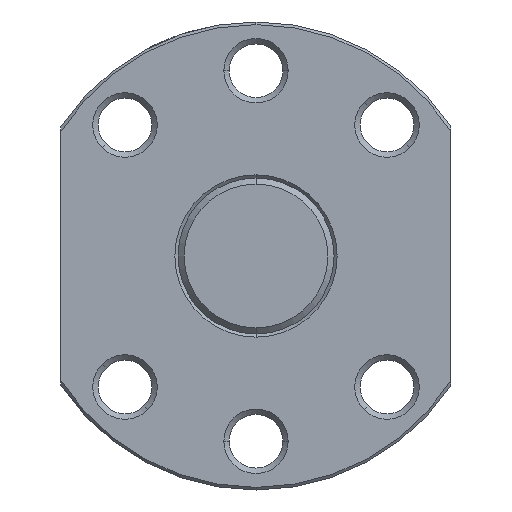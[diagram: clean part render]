
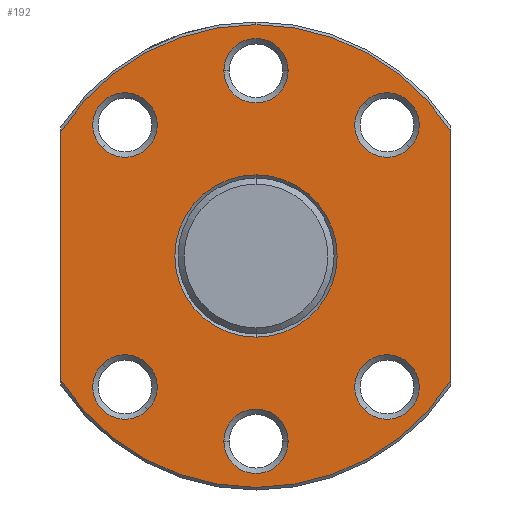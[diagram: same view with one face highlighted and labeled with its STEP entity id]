
A CAD part, left-side view. The second image highlights one B-rep face of the part: STEP entity #192.
In plain terms, the highlighted planar face has unit normal (-1, 0, 0).
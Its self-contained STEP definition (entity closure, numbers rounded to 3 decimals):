
#192=ADVANCED_FACE('',(#348,#349,#350,#351,#352,#353,#354,#355),#356,.T.);
#348=FACE_BOUND('',#521,.T.);
#349=FACE_OUTER_BOUND('',#522,.T.);
#350=FACE_BOUND('',#523,.T.);
#351=FACE_BOUND('',#524,.T.);
#352=FACE_BOUND('',#525,.T.);
#353=FACE_BOUND('',#526,.T.);
#354=FACE_BOUND('',#527,.T.);
#355=FACE_BOUND('',#528,.T.);
#356=PLANE('',#529);
#521=EDGE_LOOP('',(#1051,#1052));
#522=EDGE_LOOP('',(#1053,#1054,#1055,#1056,#1057,#1058));
#523=EDGE_LOOP('',(#1059,#1060));
#524=EDGE_LOOP('',(#1061,#1062));
#525=EDGE_LOOP('',(#1063,#1064));
#526=EDGE_LOOP('',(#1065,#1066));
#527=EDGE_LOOP('',(#1067,#1068));
#528=EDGE_LOOP('',(#1069,#1070));
#529=AXIS2_PLACEMENT_3D('',#1071,#1072,#1073);
#1051=ORIENTED_EDGE('',*,*,#1256,.T.);
#1052=ORIENTED_EDGE('',*,*,#1236,.T.);
#1053=ORIENTED_EDGE('',*,*,#1257,.T.);
#1054=ORIENTED_EDGE('',*,*,#1297,.F.);
#1055=ORIENTED_EDGE('',*,*,#1164,.F.);
#1056=ORIENTED_EDGE('',*,*,#1278,.T.);
#1057=ORIENTED_EDGE('',*,*,#1226,.F.);
#1058=ORIENTED_EDGE('',*,*,#1277,.F.);
#1059=ORIENTED_EDGE('',*,*,#1281,.T.);
#1060=ORIENTED_EDGE('',*,*,#1216,.T.);
#1061=ORIENTED_EDGE('',*,*,#1284,.T.);
#1062=ORIENTED_EDGE('',*,*,#1206,.T.);
#1063=ORIENTED_EDGE('',*,*,#1287,.T.);
#1064=ORIENTED_EDGE('',*,*,#1196,.T.);
#1065=ORIENTED_EDGE('',*,*,#1290,.T.);
#1066=ORIENTED_EDGE('',*,*,#1186,.T.);
#1067=ORIENTED_EDGE('',*,*,#1293,.T.);
#1068=ORIENTED_EDGE('',*,*,#1176,.T.);
#1069=ORIENTED_EDGE('',*,*,#1296,.T.);
#1070=ORIENTED_EDGE('',*,*,#1166,.T.);
#1071=CARTESIAN_POINT('',(25.0,0.0,11.865));
#1072=DIRECTION('',(-1.0,0.0,0.));
#1073=DIRECTION('',(0.,0.0,-1.0));
#1164=EDGE_CURVE('',#1362,#1360,#1364,.T.);
#1166=EDGE_CURVE('',#1368,#1365,#1369,.T.);
#1176=EDGE_CURVE('',#1386,#1383,#1387,.T.);
#1186=EDGE_CURVE('',#1404,#1401,#1405,.T.);
#1196=EDGE_CURVE('',#1422,#1419,#1423,.T.);
#1206=EDGE_CURVE('',#1440,#1437,#1441,.T.);
#1216=EDGE_CURVE('',#1458,#1455,#1459,.T.);
#1226=EDGE_CURVE('',#1473,#1476,#1477,.T.);
#1236=EDGE_CURVE('',#1494,#1491,#1495,.T.);
#1256=EDGE_CURVE('',#1491,#1494,#1525,.T.);
#1257=EDGE_CURVE('',#1526,#1527,#1528,.T.);
#1277=EDGE_CURVE('',#1526,#1473,#1554,.T.);
#1278=EDGE_CURVE('',#1362,#1476,#1555,.T.);
#1281=EDGE_CURVE('',#1455,#1458,#1558,.T.);
#1284=EDGE_CURVE('',#1437,#1440,#1561,.T.);
#1287=EDGE_CURVE('',#1419,#1422,#1564,.T.);
#1290=EDGE_CURVE('',#1401,#1404,#1567,.T.);
#1293=EDGE_CURVE('',#1383,#1386,#1570,.T.);
#1296=EDGE_CURVE('',#1365,#1368,#1573,.T.);
#1297=EDGE_CURVE('',#1360,#1527,#1574,.T.);
#1360=VERTEX_POINT('',#1661);
#1362=VERTEX_POINT('',#1664);
#1364=CIRCLE('',#1675,23.73);
#1365=VERTEX_POINT('',#1676);
#1368=VERTEX_POINT('',#1680);
#1369=CIRCLE('',#1681,3.3);
#1383=VERTEX_POINT('',#1700);
#1386=VERTEX_POINT('',#1704);
#1387=CIRCLE('',#1705,3.3);
#1401=VERTEX_POINT('',#1724);
#1404=VERTEX_POINT('',#1728);
#1405=CIRCLE('',#1729,3.3);
#1419=VERTEX_POINT('',#1748);
#1422=VERTEX_POINT('',#1752);
#1423=CIRCLE('',#1753,3.3);
#1437=VERTEX_POINT('',#1772);
#1440=VERTEX_POINT('',#1776);
#1441=CIRCLE('',#1777,3.3);
#1455=VERTEX_POINT('',#1796);
#1458=VERTEX_POINT('',#1800);
#1459=CIRCLE('',#1801,3.3);
#1473=VERTEX_POINT('',#1820);
#1476=VERTEX_POINT('',#1824);
#1477=CIRCLE('',#1825,23.73);
#1491=VERTEX_POINT('',#1860);
#1494=VERTEX_POINT('',#1864);
#1495=CIRCLE('',#1865,8.32);
#1525=CIRCLE('',#1971,8.32);
#1526=VERTEX_POINT('',#1972);
#1527=VERTEX_POINT('',#1973);
#1528=LINE('',#1974,#1975);
#1554=CIRCLE('',#2041,23.73);
#1555=LINE('',#2042,#2043);
#1558=CIRCLE('',#2046,3.3);
#1561=CIRCLE('',#2049,3.3);
#1564=CIRCLE('',#2052,3.3);
#1567=CIRCLE('',#2055,3.3);
#1570=CIRCLE('',#2058,3.3);
#1573=CIRCLE('',#2061,3.3);
#1574=CIRCLE('',#2062,23.73);
#1661=CARTESIAN_POINT('',(25.0,0.,-23.73));
#1664=CARTESIAN_POINT('',(25.0,-20.0,-12.772));
#1675=AXIS2_PLACEMENT_3D('',#2133,#2134,#2135);
#1676=CARTESIAN_POINT('',(25.0,-11.102,15.768));
#1680=CARTESIAN_POINT('',(25.0,-15.768,11.102));
#1681=AXIS2_PLACEMENT_3D('',#2137,#2138,#2139);
#1700=CARTESIAN_POINT('',(25.0,3.3,19.0));
#1704=CARTESIAN_POINT('',(25.0,-3.3,19.0));
#1705=AXIS2_PLACEMENT_3D('',#2155,#2156,#2157);
#1724=CARTESIAN_POINT('',(25.0,15.768,11.102));
#1728=CARTESIAN_POINT('',(25.0,11.102,15.768));
#1729=AXIS2_PLACEMENT_3D('',#2173,#2174,#2175);
#1748=CARTESIAN_POINT('',(25.0,11.102,-15.768));
#1752=CARTESIAN_POINT('',(25.0,15.768,-11.102));
#1753=AXIS2_PLACEMENT_3D('',#2191,#2192,#2193);
#1772=CARTESIAN_POINT('',(25.0,-3.3,-19.0));
#1776=CARTESIAN_POINT('',(25.0,3.3,-19.0));
#1777=AXIS2_PLACEMENT_3D('',#2209,#2210,#2211);
#1796=CARTESIAN_POINT('',(25.0,-15.768,-11.102));
#1800=CARTESIAN_POINT('',(25.0,-11.102,-15.768));
#1801=AXIS2_PLACEMENT_3D('',#2227,#2228,#2229);
#1820=CARTESIAN_POINT('',(25.0,0.,23.73));
#1824=CARTESIAN_POINT('',(25.0,-20.0,12.772));
#1825=AXIS2_PLACEMENT_3D('',#2245,#2246,#2247);
#1860=CARTESIAN_POINT('',(25.0,0.0,8.32));
#1864=CARTESIAN_POINT('',(25.0,0.,-8.32));
#1865=AXIS2_PLACEMENT_3D('',#2261,#2262,#2263);
#1971=AXIS2_PLACEMENT_3D('',#2297,#2298,#2299);
#1972=CARTESIAN_POINT('',(25.0,20.0,12.772));
#1973=CARTESIAN_POINT('',(25.0,20.0,-12.772));
#1974=CARTESIAN_POINT('',(25.0,20.0,5.933));
#1975=VECTOR('',#2300,1.0);
#2041=AXIS2_PLACEMENT_3D('',#2338,#2339,#2340);
#2042=CARTESIAN_POINT('',(25.0,-20.0,5.933));
#2043=VECTOR('',#2341,1.0);
#2046=AXIS2_PLACEMENT_3D('',#2348,#2349,#2350);
#2049=AXIS2_PLACEMENT_3D('',#2357,#2358,#2359);
#2052=AXIS2_PLACEMENT_3D('',#2366,#2367,#2368);
#2055=AXIS2_PLACEMENT_3D('',#2375,#2376,#2377);
#2058=AXIS2_PLACEMENT_3D('',#2384,#2385,#2386);
#2061=AXIS2_PLACEMENT_3D('',#2393,#2394,#2395);
#2062=AXIS2_PLACEMENT_3D('',#2396,#2397,#2398);
#2133=CARTESIAN_POINT('',(25.0,0.0,0.0));
#2134=DIRECTION('',(1.0,0.0,-0.0));
#2135=DIRECTION('',(0.0,0.0,1.0));
#2137=CARTESIAN_POINT('',(25.0,-13.435,13.435));
#2138=DIRECTION('',(1.0,0.0,0.));
#2139=DIRECTION('',(0.,0.707,0.707));
#2155=CARTESIAN_POINT('',(25.0,0.0,19.0));
#2156=DIRECTION('',(1.0,0.0,0.));
#2157=DIRECTION('',(0.0,1.0,0.0));
#2173=CARTESIAN_POINT('',(25.0,13.435,13.435));
#2174=DIRECTION('',(1.0,0.0,0.));
#2175=DIRECTION('',(0.,0.707,-0.707));
#2191=CARTESIAN_POINT('',(25.0,13.435,-13.435));
#2192=DIRECTION('',(1.0,0.0,0.));
#2193=DIRECTION('',(0.,-0.707,-0.707));
#2209=CARTESIAN_POINT('',(25.0,0.0,-19.0));
#2210=DIRECTION('',(1.0,0.0,0.));
#2211=DIRECTION('',(0.0,-1.0,0.0));
#2227=CARTESIAN_POINT('',(25.0,-13.435,-13.435));
#2228=DIRECTION('',(1.0,0.0,0.));
#2229=DIRECTION('',(0.,-0.707,0.707));
#2245=CARTESIAN_POINT('',(25.0,0.0,0.0));
#2246=DIRECTION('',(1.0,0.0,-0.0));
#2247=DIRECTION('',(0.0,0.0,1.0));
#2261=CARTESIAN_POINT('',(25.0,0.0,0.0));
#2262=DIRECTION('',(1.0,0.0,0.));
#2263=DIRECTION('',(0.,0.0,1.0));
#2297=CARTESIAN_POINT('',(25.0,0.0,0.0));
#2298=DIRECTION('',(1.0,0.0,0.));
#2299=DIRECTION('',(0.,0.0,1.0));
#2300=DIRECTION('',(0.,0.0,-1.0));
#2338=CARTESIAN_POINT('',(25.0,0.0,0.0));
#2339=DIRECTION('',(1.0,0.0,-0.0));
#2340=DIRECTION('',(0.0,0.0,1.0));
#2341=DIRECTION('',(0.,0.0,1.0));
#2348=CARTESIAN_POINT('',(25.0,-13.435,-13.435));
#2349=DIRECTION('',(1.0,0.0,0.));
#2350=DIRECTION('',(0.,-0.707,0.707));
#2357=CARTESIAN_POINT('',(25.0,0.0,-19.0));
#2358=DIRECTION('',(1.0,0.0,0.));
#2359=DIRECTION('',(0.0,-1.0,0.0));
#2366=CARTESIAN_POINT('',(25.0,13.435,-13.435));
#2367=DIRECTION('',(1.0,0.0,0.));
#2368=DIRECTION('',(0.,-0.707,-0.707));
#2375=CARTESIAN_POINT('',(25.0,13.435,13.435));
#2376=DIRECTION('',(1.0,0.0,0.));
#2377=DIRECTION('',(0.,0.707,-0.707));
#2384=CARTESIAN_POINT('',(25.0,0.0,19.0));
#2385=DIRECTION('',(1.0,0.0,0.));
#2386=DIRECTION('',(0.0,1.0,0.0));
#2393=CARTESIAN_POINT('',(25.0,-13.435,13.435));
#2394=DIRECTION('',(1.0,0.0,0.));
#2395=DIRECTION('',(0.,0.707,0.707));
#2396=CARTESIAN_POINT('',(25.0,0.0,0.0));
#2397=DIRECTION('',(1.0,0.0,-0.0));
#2398=DIRECTION('',(0.0,0.0,1.0));
